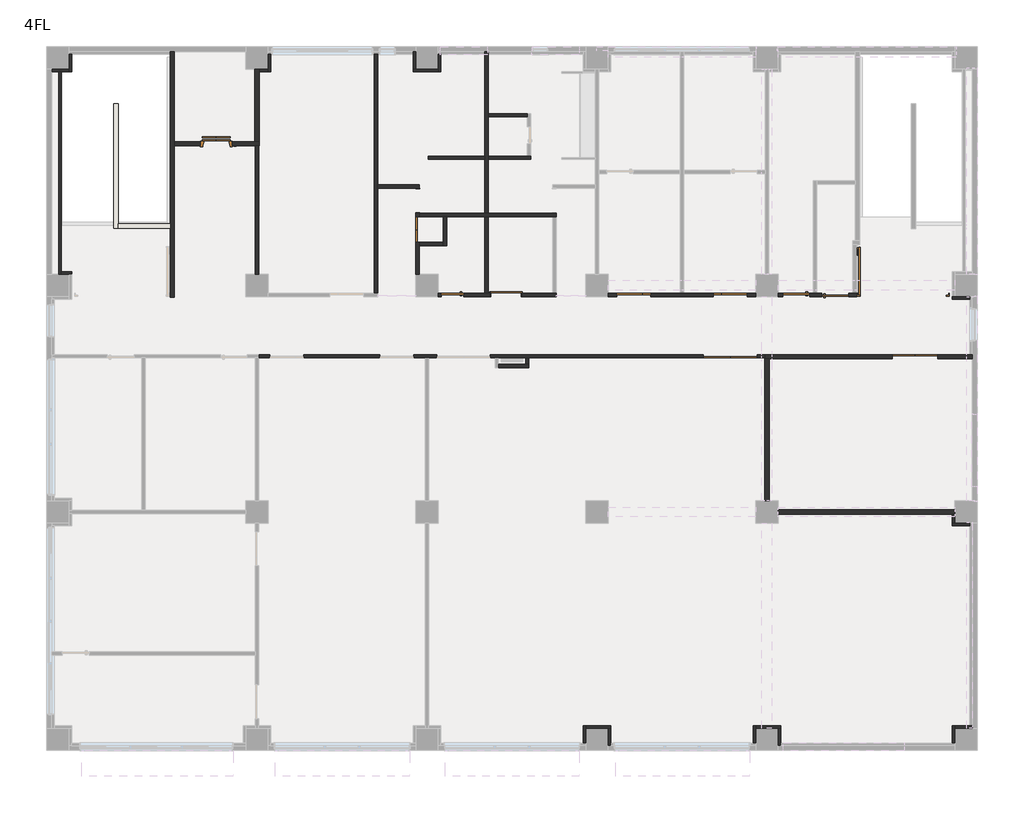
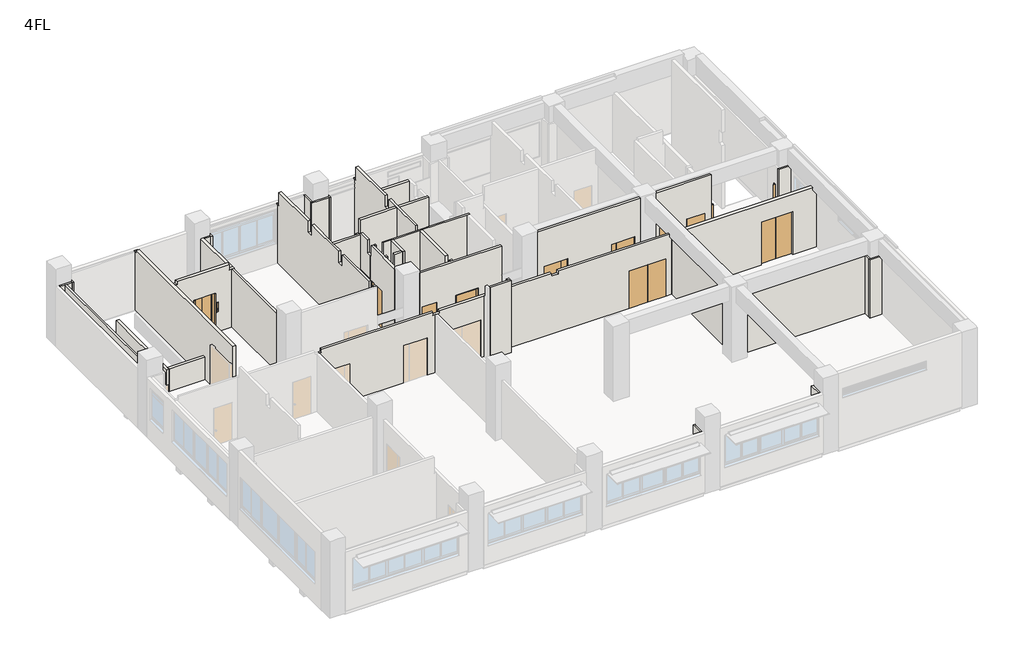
# One storey, part 2 of 5: 45 walls, 12 doors.
"""IFC4 building model written with IfcOpenShell, lengths in millimetres."""

from ifc_helpers import new_model, si_unit, frame, origin, place, context, project, spatial, polyline, outline, extrude, faceted_brep, transform, mapped, element, save
from components import door_18b0804b, door_c235f466, door_9fa6e922, door_14d6dc4f, door_dd0264bc, door_2816d948, door_f9cae23c, door_7458d189, door_0812e9ce, door_48d1ee04, sd13_d994cb3e

model = new_model("IFC4")

# Units and contexts
model_context = context("Model", 3, world=origin())
ifc_project = project(units=[si_unit("LENGTHUNIT", "METRE", prefix="MILLI")], contexts=[model_context])

# Site, building, storey
site = spatial("IfcSite", under=ifc_project)
building = spatial("IfcBuilding", under=site)
storey = spatial("IfcBuildingStorey", under=building, Name="4FL", Elevation=12300.0)

# Doors
placement = place(None, origin())
door_shape = door_18b0804b(model_context)
element("IfcDoor", 1, ObjectType="営_親子扉 : LD2 1200*2000", at=placement, inside=storey, context=model_context, shape_type="MappedRepresentation", body=[
    mapped(door_shape, transform((23700.0, 15665.0, 12300.0), x_axis=(1.0, 0.0, 0.0), y_axis=(0.0, 1.0, 0.0), z_axis=(0.0, 0.0, 1.0))),
])
door_2_shape = door_c235f466(model_context)
element("IfcDoor", 2, ObjectType="営_親子扉 : LD2 1200*2000", at=placement, inside=storey, context=model_context, shape_type="MappedRepresentation", body=[
    mapped(door_2_shape, transform((20300.0, 15665.0, 12300.0), x_axis=(-1.0, 0.0, 0.0), y_axis=(0.0, -1.0, 0.0), z_axis=(0.0, 0.0, 1.0))),
])
door_3_shape = door_9fa6e922(model_context)
element("IfcDoor", 3, ObjectType="営_EVドア : EVドア", at=placement, inside=storey, context=model_context, shape_type="MappedRepresentation", body=[
    mapped(door_3_shape, transform((5560.0, 21000.0, 12300.0), x_axis=(1.0, 0.0, 0.0), y_axis=(0.0, 1.0, 0.0), z_axis=(0.0, 0.0, 1.0))),
])
door_4_shape = door_14d6dc4f(model_context)
element("IfcDoor", 4, ObjectType="営_三方枠 : S1_850*2000", at=placement, inside=storey, context=model_context, shape_type="MappedRepresentation", body=[
    mapped(door_4_shape, transform((12665.0, 18990.25, 12300.0), x_axis=(0.0, 1.0, 0.0), y_axis=(-1.0, 0.0, 0.0), z_axis=(0.0, 0.0, 1.0))),
])
door_5_shape = door_dd0264bc(model_context)
element("IfcDoor", 5, ObjectType="営_両開き扉 : SD3b 1600*2300", at=placement, inside=storey, context=model_context, shape_type="MappedRepresentation", body=[
    mapped(door_5_shape, transform((30235.0, 13480.0, 12300.0), x_axis=(1.0, 0.0, 0.0), y_axis=(0.0, 1.0, 0.0), z_axis=(0.0, 0.0, 1.0))),
])
door_6_shape = door_2816d948(model_context)
element("IfcDoor", 6, ObjectType="営_両開き扉 : LD4 1900*2000", at=placement, inside=storey, context=model_context, shape_type="MappedRepresentation", body=[
    mapped(door_6_shape, transform((23710.0, 13500.0, 12300.0), x_axis=(-1.0, 0.0, 0.0), y_axis=(0.0, -1.0, 0.0), z_axis=(0.0, 0.0, 1.0))),
])
door_7_shape = door_f9cae23c(model_context)
element("IfcDoor", 7, ObjectType="営_両開き扉 : LD5 900*2000", at=placement, inside=storey, context=model_context, shape_type="MappedRepresentation", body=[
    mapped(door_7_shape, transform((12665.0, 17975.0, 12300.0), x_axis=(0.0, 1.0, 0.0), y_axis=(-1.0, 0.0, 0.0), z_axis=(0.0, 0.0, 1.0))),
])
door_8_shape = door_7458d189(model_context)
element("IfcDoor", 8, ObjectType="営_引戸／引込戸 : LD1 960*2000", at=placement, inside=storey, context=model_context, shape_type="MappedRepresentation", body=[
    mapped(door_8_shape, transform((15800.0, 15665.0, 12300.0), x_axis=(1.0, 0.0, 0.0), y_axis=(0.0, 1.0, 0.0), z_axis=(0.0, 0.0, 1.0))),
])
door_9_shape = door_0812e9ce(model_context)
element("IfcDoor", 9, ObjectType="営_片開き扉 : LD3 950*2000", at=placement, inside=storey, context=model_context, shape_type="MappedRepresentation", body=[
    mapped(door_9_shape, transform((26030.0, 15665.0, 12300.0), x_axis=(-1.0, 0.0, 0.0), y_axis=(0.0, -1.0, 0.0), z_axis=(0.0, 0.0, 1.0))),
])
element("IfcDoor", 10, ObjectType="営_片開き扉 : LD3 950*2000", at=placement, inside=storey, context=model_context, shape_type="MappedRepresentation", body=[
    mapped(door_9_shape, transform((27410.0, 15665.0, 12300.0), x_axis=(1.0, 0.0, 0.0), y_axis=(0.0, 1.0, 0.0), z_axis=(0.0, 0.0, 1.0))),
])
door_10_shape = door_48d1ee04(model_context)
element("IfcDoor", 11, ObjectType="営_片開き扉 : LD11 850*2000", at=placement, inside=storey, context=model_context, shape_type="MappedRepresentation", body=[
    mapped(door_10_shape, transform((13900.0, 15665.0, 12300.0), x_axis=(-1.0, 0.0, 0.0), y_axis=(0.0, -1.0, 0.0), z_axis=(0.0, 0.0, 1.0))),
])
sd13_shape = sd13_d994cb3e(model_context)
element("IfcDoor", 12, ObjectType="営_随閉扉 B階段 2～4F : SD13", at=placement, inside=storey, context=model_context, shape_type="MappedRepresentation", body=[
    mapped(sd13_shape, transform((28100.0, 15665.0, 12300.0), x_axis=(0.0, -1.0, 0.0), y_axis=(1.0, 0.0, 0.0), z_axis=(0.0, 0.0, 1.0))),
])

# Walls
element("IfcWall", 13, ObjectType="(内壁)150_RC", at=placement, inside=storey, context=model_context, shape_type="Brep", body=[
    faceted_brep([(24925.0, 13555.0, 15400.0), (25175.0, 13555.0, 15400.0), (25175.0, 13555.0, 15550.0), (32050.0, 13555.0, 15550.0), (32050.0, 13555.0, 15400.0), (32250.0, 13555.0, 15400.0), (32250.0, 13555.0, 12300.0), (31035.0, 13555.0, 12300.0), (31035.0, 13555.0, 14600.0), (29435.0, 13555.0, 14600.0), (29435.0, 13555.0, 12300.0), (24925.0, 13555.0, 12300.0), (25175.0, 13405.0, 15400.0), (25075.0, 13405.0, 15400.0), (24925.0, 13405.0, 15400.0), (24925.0, 13405.0, 12300.0), (25075.0, 13405.0, 12300.0), (29435.0, 13405.0, 12300.0), (29435.0, 13405.0, 14600.0), (31035.0, 13405.0, 14600.0), (31035.0, 13405.0, 12300.0), (32250.0, 13405.0, 12300.0), (32250.0, 13405.0, 15400.0), (32050.0, 13405.0, 15400.0), (32050.0, 13405.0, 15550.0), (25175.0, 13405.0, 15550.0), (24925.0, 13440.0, 12300.0), (24925.0, 13440.0, 15400.0)], [[[0, 1, 2, 3, 4, 5, 6, 7, 8, 9, 10, 11]], [[12, 13, 14, 15, 16, 17, 18, 19, 20, 21, 22, 23, 24, 25]], [[6, 21, 20, 7]], [[15, 26, 11, 10, 17, 16]], [[21, 6, 5, 22]], [[11, 26, 15, 14, 27, 0]], [[1, 12, 25, 2]], [[12, 1, 0, 27, 14, 13]], [[4, 23, 22, 5]], [[23, 4, 3, 24]], [[10, 9, 18, 17]], [[8, 7, 20, 19]], [[9, 8, 19, 18]], [[3, 2, 25, 24]]]),
])
element("IfcWall", 14, ObjectType="(内壁)150_RC", at=placement, inside=storey, context=model_context, shape_type="SweptSolid", body=[
    extrude(outline(polyline([(24925.0, 13405.0), (25075.0, 13405.0), (25075.0, 8395.0), (24925.0, 8395.0), (24925.0, 13405.0)])), frame((0.0, 0.0, 12300.0), z_axis=(0.0, 0.0, 1.0), x_axis=(1.0, 0.0, 0.0)), (0.0, 0.0, 1.0), 3100.0),
])
element("IfcWall", 15, ObjectType="(内壁)150_RC", at=placement, inside=storey, context=model_context, shape_type="Brep", body=[
    faceted_brep([(25395.0, 7925.0, 12300.0), (31630.0, 7925.0, 12300.0), (31630.0, 7925.0, 15400.0), (31630.0, 7925.0, 15450.0), (25395.0, 7925.0, 15450.0), (31630.0, 8075.0, 12300.0), (25395.0, 8075.0, 12300.0), (25395.0, 8075.0, 15450.0), (31630.0, 8075.0, 15450.0)], [[[0, 1, 2, 3, 4]], [[5, 6, 7, 8]], [[0, 6, 5, 1]], [[6, 0, 4, 7]], [[1, 5, 8, 3, 2]], [[4, 3, 8, 7]]]),
])
element("IfcWall", 16, ObjectType="(内壁)150_RC", at=placement, inside=storey, context=model_context, shape_type="Brep", body=[
    faceted_brep([(3925.0, 24250.0, 12300.0), (3925.0, 18175.0, 12300.0), (3925.0, 18025.0, 12300.0), (3925.0, 15580.0, 12300.0), (3925.0, 15580.0, 15550.0), (3925.0, 24050.0, 15550.0), (3925.0, 24050.0, 15450.0), (3925.0, 24250.0, 15450.0), (4075.0, 15580.0, 12300.0), (4075.0, 20925.0, 12300.0), (4075.0, 21075.0, 12300.0), (4075.0, 24250.0, 12300.0), (4075.0, 24250.0, 15450.0), (4075.0, 24050.0, 15450.0), (4075.0, 24050.0, 15550.0), (4075.0, 21075.0, 15550.0), (4075.0, 20925.0, 15550.0), (4075.0, 15580.0, 15550.0)], [[[0, 1, 2, 3, 4, 5, 6, 7]], [[8, 9, 10, 11, 12, 13, 14, 15, 16, 17]], [[3, 2, 1, 0, 11, 10, 9, 8]], [[4, 3, 8, 17]], [[4, 17, 16, 15, 14, 5]], [[11, 0, 7, 12]], [[13, 6, 5, 14]], [[6, 13, 12, 7]]]),
])
element("IfcWall", 17, ObjectType="(内壁)150_RC", at=placement, inside=storey, context=model_context, shape_type="Brep", body=[
    faceted_brep([(7075.0, 20925.0, 15400.0), (7060.0, 20925.0, 15400.0), (6940.0, 20925.0, 15400.0), (6825.0, 20925.0, 15400.0), (6825.0, 20925.0, 15700.0), (4175.0, 20925.0, 15700.0), (4175.0, 20925.0, 15550.0), (4075.0, 20925.0, 15550.0), (4075.0, 20925.0, 12300.0), (5000.0, 20925.0, 12300.0), (5000.0, 20925.0, 14400.0), (6120.0, 20925.0, 14400.0), (6120.0, 20925.0, 12300.0), (6940.0, 20925.0, 12300.0), (7060.0, 20925.0, 12300.0), (7075.0, 20925.0, 12300.0), (6825.0, 21075.0, 15400.0), (6925.0, 21075.0, 15400.0), (7075.0, 21075.0, 15400.0), (7075.0, 21075.0, 12300.0), (6925.0, 21075.0, 12300.0), (6120.0, 21075.0, 12300.0), (6120.0, 21075.0, 14400.0), (5000.0, 21075.0, 14400.0), (5000.0, 21075.0, 12300.0), (4075.0, 21075.0, 12300.0), (4075.0, 21075.0, 15550.0), (4175.0, 21075.0, 15550.0), (4175.0, 21075.0, 15700.0), (6825.0, 21075.0, 15700.0)], [[[0, 1, 2, 3, 4, 5, 6, 7, 8, 9, 10, 11, 12, 13, 14, 15]], [[16, 17, 18, 19, 20, 21, 22, 23, 24, 25, 26, 27, 28, 29]], [[19, 15, 14, 13, 12, 21, 20]], [[8, 25, 24, 9]], [[15, 19, 18, 0]], [[25, 8, 7, 26]], [[3, 2, 1, 0, 18, 17, 16]], [[3, 16, 29, 4]], [[24, 23, 10, 9]], [[22, 21, 12, 11]], [[23, 22, 11, 10]], [[4, 29, 28, 5]], [[27, 6, 5, 28]], [[6, 27, 26, 7]]]),
])
element("IfcWall", 18, ObjectType="(内壁)150_RC", at=placement, inside=storey, context=model_context, shape_type="Brep", body=[
    faceted_brep([(7075.0, 21075.0, 12300.0), (7075.0, 23540.0, 12300.0), (7075.0, 23630.0, 12300.0), (7075.0, 23630.0, 15400.0), (7075.0, 23540.0, 15400.0), (7075.0, 21075.0, 15400.0), (6925.0, 23630.0, 12300.0), (6925.0, 21075.0, 12300.0), (6925.0, 21075.0, 15400.0), (6925.0, 23630.0, 15400.0)], [[[0, 1, 2, 3, 4, 5]], [[6, 7, 8, 9]], [[0, 7, 6, 2, 1]], [[7, 0, 5, 8]], [[2, 6, 9, 3]], [[5, 4, 3, 9, 8]]]),
])
element("IfcWall", 19, ObjectType="(内壁)W3", at=placement, inside=storey, context=model_context, shape_type="SweptSolid", body=[
    extrude(outline(polyline([(6940.0, 20925.0), (7060.0, 20925.0), (7060.0, 16395.0), (6940.0, 16395.0), (6940.0, 20925.0)])), frame((0.0, 0.0, 12300.0), z_axis=(0.0, 0.0, 1.0), x_axis=(1.0, 0.0, 0.0)), (0.0, 0.0, 1.0), 3100.0),
])
element("IfcWall", 20, ObjectType="(内壁)W3", at=placement, inside=storey, context=model_context, shape_type="Brep", body=[
    faceted_brep([(28175.0, 15725.0, 16250.0), (28175.0, 15725.0, 16150.0), (28175.0, 15725.0, 12300.0), (28025.0, 15725.0, 12300.0), (27885.0, 15725.0, 12300.0), (27885.0, 15725.0, 14300.0), (26935.0, 15725.0, 14300.0), (26935.0, 15725.0, 12300.0), (26760.0, 15725.0, 12300.0), (26640.0, 15725.0, 12300.0), (26505.0, 15725.0, 12300.0), (26505.0, 15725.0, 14300.0), (25555.0, 15725.0, 14300.0), (25555.0, 15725.0, 12300.0), (25395.0, 15725.0, 12300.0), (25395.0, 15725.0, 16250.0), (28175.0, 15605.0, 12300.0), (28175.0, 15605.0, 16250.0), (25395.0, 15605.0, 16250.0), (25395.0, 15605.0, 12300.0), (25555.0, 15605.0, 12300.0), (25555.0, 15605.0, 14300.0), (26505.0, 15605.0, 14300.0), (26505.0, 15605.0, 12300.0), (26935.0, 15605.0, 12300.0), (26935.0, 15605.0, 14300.0), (27885.0, 15605.0, 14300.0), (27885.0, 15605.0, 12300.0)], [[[0, 1, 2, 3, 4, 5, 6, 7, 8, 9, 10, 11, 12, 13, 14, 15]], [[16, 17, 18, 19, 20, 21, 22, 23, 24, 25, 26, 27]], [[2, 16, 27, 4, 3]], [[23, 10, 9, 8, 7, 24]], [[13, 20, 19, 14]], [[17, 0, 15, 18]], [[2, 1, 0, 17, 16]], [[23, 22, 11, 10]], [[21, 20, 13, 12]], [[22, 21, 12, 11]], [[7, 6, 25, 24]], [[5, 4, 27, 26]], [[6, 5, 26, 25]], [[15, 14, 19, 18]]]),
    faceted_brep([(20900.0, 15725.0, 12300.0), (20900.0, 15725.0, 14300.0), (19700.0, 15725.0, 14300.0), (19700.0, 15725.0, 12300.0), (19395.0, 15725.0, 12300.0), (19395.0, 15725.0, 16250.0), (24605.0, 15725.0, 16250.0), (24605.0, 15725.0, 12300.0), (24300.0, 15725.0, 12300.0), (24300.0, 15725.0, 14300.0), (23100.0, 15725.0, 14300.0), (23100.0, 15725.0, 12300.0), (22060.0, 15725.0, 12300.0), (21940.0, 15725.0, 12300.0), (20900.0, 15605.0, 14300.0), (20900.0, 15605.0, 12300.0), (23100.0, 15605.0, 12300.0), (23100.0, 15605.0, 14300.0), (24300.0, 15605.0, 14300.0), (24300.0, 15605.0, 12300.0), (24605.0, 15605.0, 12300.0), (24605.0, 15605.0, 16250.0), (19395.0, 15605.0, 16250.0), (19395.0, 15605.0, 12300.0), (19700.0, 15605.0, 12300.0), (19700.0, 15605.0, 14300.0)], [[[0, 1, 2, 3, 4, 5, 6, 7, 8, 9, 10, 11, 12, 13]], [[14, 15, 16, 17, 18, 19, 20, 21, 22, 23, 24, 25]], [[15, 0, 13, 12, 11, 16]], [[3, 24, 23, 4]], [[19, 8, 7, 20]], [[5, 22, 21, 6]], [[15, 14, 1, 0]], [[25, 24, 3, 2]], [[14, 25, 2, 1]], [[11, 10, 17, 16]], [[9, 8, 19, 18]], [[10, 9, 18, 17]], [[5, 4, 23, 22]], [[7, 6, 21, 20]]]),
])
element("IfcWall", 21, ObjectType="(内壁)W4", at=placement, inside=storey, context=model_context, shape_type="Brep", body=[
    faceted_brep([(14300.0, 15725.0, 12300.0), (14300.0, 15725.0, 14300.0), (13500.0, 15725.0, 14300.0), (13500.0, 15725.0, 12300.0), (13395.0, 15725.0, 12300.0), (13395.0, 15725.0, 16150.0), (15040.0, 15725.0, 16150.0), (15160.0, 15725.0, 16150.0), (17440.0, 15725.0, 16150.0), (17560.0, 15725.0, 16150.0), (17560.0, 15725.0, 12300.0), (17440.0, 15725.0, 12300.0), (16355.0, 15725.0, 12300.0), (16355.0, 15725.0, 14325.0), (15220.0, 15725.0, 14325.0), (15220.0, 15725.0, 12300.0), (15160.0, 15725.0, 12300.0), (15040.0, 15725.0, 12300.0), (14300.0, 15605.0, 14300.0), (14300.0, 15605.0, 12300.0), (15220.0, 15605.0, 12300.0), (15220.0, 15605.0, 14325.0), (16355.0, 15605.0, 14325.0), (16355.0, 15605.0, 12300.0), (17560.0, 15605.0, 12300.0), (17560.0, 15605.0, 16150.0), (13395.0, 15605.0, 16150.0), (13395.0, 15605.0, 12300.0), (13500.0, 15605.0, 12300.0), (13500.0, 15605.0, 14300.0)], [[[0, 1, 2, 3, 4, 5, 6, 7, 8, 9, 10, 11, 12, 13, 14, 15, 16, 17]], [[18, 19, 20, 21, 22, 23, 24, 25, 26, 27, 28, 29]], [[19, 0, 17, 16, 15, 20]], [[3, 28, 27, 4]], [[24, 23, 12, 11, 10]], [[25, 9, 8, 7, 6, 5, 26]], [[19, 18, 1, 0]], [[29, 28, 3, 2]], [[18, 29, 2, 1]], [[14, 21, 20, 15]], [[22, 13, 12, 23]], [[21, 14, 13, 22]], [[5, 4, 27, 26]], [[10, 9, 25, 24]]]),
])
element("IfcWall", 22, ObjectType="(内壁)W4", at=placement, inside=storey, context=model_context, shape_type="Brep", body=[
    faceted_brep([(11140.0, 15725.0, 16150.0), (11140.0, 15825.0, 16150.0), (11140.0, 15825.0, 15450.0), (11140.0, 16175.0, 15450.0), (11140.0, 16175.0, 16150.0), (11140.0, 18495.0, 16150.0), (11140.0, 18495.0, 15550.0), (11140.0, 18845.0, 15550.0), (11140.0, 18845.0, 16150.0), (11140.0, 21165.0, 16150.0), (11140.0, 21165.0, 15550.0), (11140.0, 21515.0, 15550.0), (11140.0, 21515.0, 16150.0), (11140.0, 24050.0, 16150.0), (11140.0, 24050.0, 15450.0), (11140.0, 24250.0, 15450.0), (11140.0, 24250.0, 15400.0), (11140.0, 24160.6075581, 15400.0), (11140.0, 24160.6075581, 12300.0), (11140.0, 15725.0, 12300.0), (11260.0, 15825.0, 16150.0), (11260.0, 15725.0, 16150.0), (11260.0, 15725.0, 12300.0), (11260.0, 19430.0, 12300.0), (11260.0, 19550.0, 12300.0), (11260.0, 24160.6075581, 12300.0), (11260.0, 24160.6075581, 15400.0), (11260.0, 24250.0, 15400.0), (11260.0, 24250.0, 15450.0), (11260.0, 24050.0, 15450.0), (11260.0, 24050.0, 16150.0), (11260.0, 21515.0, 16150.0), (11260.0, 21515.0, 15550.0), (11260.0, 21165.0, 15550.0), (11260.0, 21165.0, 16150.0), (11260.0, 19550.0, 16150.0), (11260.0, 19430.0, 16150.0), (11260.0, 18845.0, 16150.0), (11260.0, 18845.0, 15550.0), (11260.0, 18495.0, 15550.0), (11260.0, 18495.0, 16150.0), (11260.0, 16175.0, 16150.0), (11260.0, 16175.0, 15450.0), (11260.0, 15825.0, 15450.0)], [[[0, 1, 2, 3, 4, 5, 6, 7, 8, 9, 10, 11, 12, 13, 14, 15, 16, 17, 18, 19]], [[20, 21, 22, 23, 24, 25, 26, 27, 28, 29, 30, 31, 32, 33, 34, 35, 36, 37, 38, 39, 40, 41, 42, 43]], [[19, 18, 25, 24, 23, 22]], [[1, 0, 21, 20]], [[4, 41, 40, 5]], [[30, 13, 12, 31]], [[8, 37, 36, 35, 34, 9]], [[15, 28, 27, 16]], [[2, 1, 20, 43]], [[3, 2, 43, 42]], [[4, 3, 42, 41]], [[29, 14, 13, 30]], [[14, 29, 28, 15]], [[17, 26, 25, 18]], [[26, 17, 16, 27]], [[39, 6, 5, 40]], [[6, 39, 38, 7]], [[7, 38, 37, 8]], [[33, 10, 9, 34]], [[10, 33, 32, 11]], [[11, 32, 31, 12]], [[0, 19, 22, 21]]]),
])
element("IfcWall", 23, ObjectType="(内壁)W4", at=placement, inside=storey, context=model_context, shape_type="Brep", body=[
    faceted_brep([(12725.0, 17525.0, 12300.0), (12725.0, 17525.0, 14300.0), (12725.0, 18425.0, 14300.0), (12725.0, 18425.0, 12300.0), (12725.0, 18430.0, 12300.0), (12725.0, 18550.0, 12300.0), (12725.0, 18550.0, 15550.0), (12725.0, 18495.0, 15550.0), (12725.0, 18495.0, 16150.0), (12725.0, 18430.0, 16150.0), (12725.0, 17520.0, 16150.0), (12725.0, 17400.0, 16150.0), (12725.0, 16395.0, 16150.0), (12725.0, 16395.0, 12300.0), (12725.0, 17400.0, 12300.0), (12725.0, 17520.0, 12300.0), (12605.0, 17525.0, 14300.0), (12605.0, 17525.0, 12300.0), (12605.0, 16395.0, 12300.0), (12605.0, 16395.0, 16150.0), (12605.0, 18495.0, 16150.0), (12605.0, 18495.0, 15550.0), (12605.0, 18550.0, 15550.0), (12605.0, 18550.0, 12300.0), (12605.0, 18425.0, 12300.0), (12605.0, 18425.0, 14300.0)], [[[0, 1, 2, 3, 4, 5, 6, 7, 8, 9, 10, 11, 12, 13, 14, 15]], [[16, 17, 18, 19, 20, 21, 22, 23, 24, 25]], [[17, 0, 15, 14, 13, 18]], [[23, 5, 4, 3, 24]], [[19, 12, 11, 10, 9, 8, 20]], [[5, 23, 22, 6]], [[17, 16, 1, 0]], [[25, 24, 3, 2]], [[16, 25, 2, 1]], [[13, 12, 19, 18]], [[7, 21, 20, 8]], [[21, 7, 6, 22]]]),
])
element("IfcWall", 24, ObjectType="(内壁)W4", at=placement, inside=storey, context=model_context, shape_type="Brep", body=[
    faceted_brep([(12725.0, 18430.0, 12300.0), (13570.0, 18430.0, 12300.0), (13690.0, 18430.0, 12300.0), (15040.0, 18430.0, 12300.0), (15160.0, 18430.0, 12300.0), (17440.0, 18430.0, 12300.0), (17560.0, 18430.0, 12300.0), (17560.0, 18430.0, 16150.0), (17440.0, 18430.0, 16150.0), (15160.0, 18430.0, 16150.0), (15040.0, 18430.0, 16150.0), (13690.0, 18430.0, 16150.0), (13570.0, 18430.0, 16150.0), (13175.0, 18430.0, 16150.0), (13175.0, 18430.0, 15400.0), (12825.0, 18430.0, 15400.0), (12825.0, 18430.0, 16150.0), (12725.0, 18430.0, 16150.0), (17560.0, 18550.0, 12300.0), (17440.0, 18550.0, 12300.0), (15160.0, 18550.0, 12300.0), (15040.0, 18550.0, 12300.0), (12725.0, 18550.0, 12300.0), (12725.0, 18550.0, 15550.0), (12825.0, 18550.0, 15550.0), (12825.0, 18550.0, 15400.0), (13175.0, 18550.0, 15400.0), (13175.0, 18550.0, 15550.0), (15040.0, 18550.0, 15550.0), (15160.0, 18550.0, 15550.0), (17440.0, 18550.0, 15550.0), (17560.0, 18550.0, 15550.0), (12825.0, 18495.0, 16150.0), (12725.0, 18495.0, 16150.0), (17560.0, 18495.0, 16150.0), (13175.0, 18495.0, 16150.0), (12725.0, 18495.0, 15550.0), (17560.0, 18495.0, 15550.0), (13175.0, 18495.0, 15550.0), (12825.0, 18495.0, 15550.0)], [[[0, 1, 2, 3, 4, 5, 6, 7, 8, 9, 10, 11, 12, 13, 14, 15, 16, 17]], [[18, 19, 20, 21, 22, 23, 24, 25, 26, 27, 28, 29, 30, 31]], [[6, 5, 4, 3, 2, 1, 0, 22, 21, 20, 19, 18]], [[17, 16, 32, 33]], [[13, 12, 11, 10, 9, 8, 7, 34, 35]], [[0, 17, 33, 36, 23, 22]], [[7, 6, 18, 31, 37, 34]], [[14, 13, 35, 38, 27, 26]], [[15, 14, 26, 25]], [[16, 15, 25, 24, 39, 32]], [[37, 38, 35, 34]], [[38, 37, 31, 30, 29, 28, 27]], [[39, 36, 33, 32]], [[36, 39, 24, 23]]]),
])
element("IfcWall", 25, ObjectType="(内壁)W3", at=placement, inside=storey, context=model_context, shape_type="Brep", body=[
    faceted_brep([(13690.0, 17400.0, 12300.0), (13690.0, 18430.0, 12300.0), (13690.0, 18430.0, 16150.0), (13690.0, 17400.0, 16150.0), (13570.0, 17400.0, 12300.0), (13570.0, 17400.0, 16150.0), (13570.0, 17520.0, 16150.0), (13570.0, 18430.0, 16150.0), (13570.0, 18430.0, 12300.0), (13570.0, 17520.0, 12300.0)], [[[0, 1, 2, 3]], [[4, 5, 6, 7, 8, 9]], [[1, 0, 4, 9, 8]], [[3, 2, 7, 6, 5]], [[2, 1, 8, 7]], [[0, 3, 5, 4]]]),
])
element("IfcWall", 26, ObjectType="(内壁)W4", at=placement, inside=storey, context=model_context, shape_type="SweptSolid", body=[
    extrude(outline(polyline([(12300.0, 13040.0), (12300.0, 15040.0), (16150.0, 15040.0), (16150.0, 13175.0), (15400.0, 13175.0), (15400.0, 13040.0), (12300.0, 13040.0)])), frame((0.0, 20450.0, 0.0), z_axis=(0.0, 1.0, 0.0), x_axis=(0.0, 0.0, 1.0)), (0.0, 0.0, 1.0), 120.0),
])
element("IfcWall", 27, ObjectType="(内壁)W3", at=placement, inside=storey, context=model_context, shape_type="SweptSolid", body=[
    extrude(outline(polyline([(15160.0, 22070.0), (16540.0, 22070.0), (16540.0, 21950.0), (15160.0, 21950.0), (15160.0, 22070.0)])), frame((0.0, 0.0, 12300.0), z_axis=(0.0, 0.0, 1.0), x_axis=(1.0, 0.0, 0.0)), (0.0, 0.0, 1.0), 3850.0),
])
element("IfcWall", 28, ObjectType="(内壁)W4", at=placement, inside=storey, context=model_context, shape_type="Brep", body=[
    faceted_brep([(11260.0, 19430.0, 12300.0), (12605.0, 19430.0, 12300.0), (12725.0, 19430.0, 12300.0), (12725.0, 19430.0, 16150.0), (11260.0, 19430.0, 16150.0), (11260.0, 19550.0, 12300.0), (11260.0, 19550.0, 16150.0), (12725.0, 19550.0, 16150.0), (12725.0, 19550.0, 12300.0)], [[[0, 1, 2, 3, 4]], [[5, 6, 7, 8]], [[2, 1, 0, 5, 8]], [[4, 3, 7, 6]], [[0, 4, 6, 5]], [[3, 2, 8, 7]]]),
])
element("IfcWall", 29, ObjectType="(内壁)W4", at=placement, inside=storey, context=model_context, shape_type="Brep", body=[
    faceted_brep([(15040.0, 18430.0, 12300.0), (15040.0, 15725.0, 12300.0), (15040.0, 15725.0, 16150.0), (15040.0, 15825.0, 16150.0), (15040.0, 15825.0, 15450.0), (15040.0, 16175.0, 15450.0), (15040.0, 16175.0, 16150.0), (15040.0, 18430.0, 16150.0), (15160.0, 15725.0, 12300.0), (15160.0, 18430.0, 12300.0), (15160.0, 18430.0, 16150.0), (15160.0, 16175.0, 16150.0), (15160.0, 16175.0, 15450.0), (15160.0, 15825.0, 15450.0), (15160.0, 15825.0, 16150.0), (15160.0, 15725.0, 16150.0)], [[[0, 1, 2, 3, 4, 5, 6, 7]], [[8, 9, 10, 11, 12, 13, 14, 15]], [[1, 0, 9, 8]], [[10, 7, 6, 11]], [[2, 15, 14, 3]], [[0, 7, 10, 9]], [[2, 1, 8, 15]], [[4, 3, 14, 13]], [[5, 4, 13, 12]], [[6, 5, 12, 11]]]),
    faceted_brep([(15040.0, 24250.0, 12300.0), (15040.0, 24160.0, 12300.0), (15040.0, 20570.0, 12300.0), (15040.0, 20450.0, 12300.0), (15040.0, 18550.0, 12300.0), (15040.0, 18550.0, 15550.0), (15040.0, 18845.0, 15550.0), (15040.0, 18845.0, 16150.0), (15040.0, 20450.0, 16150.0), (15040.0, 20570.0, 16150.0), (15040.0, 21165.0, 16150.0), (15040.0, 21165.0, 15550.0), (15040.0, 21515.0, 15550.0), (15040.0, 21515.0, 16150.0), (15040.0, 24050.0, 16150.0), (15040.0, 24050.0, 15450.0), (15040.0, 24250.0, 15450.0), (15040.0, 24250.0, 15400.0), (15160.0, 18550.0, 12300.0), (15160.0, 20450.0, 12300.0), (15160.0, 20570.0, 12300.0), (15160.0, 21950.0, 12300.0), (15160.0, 22070.0, 12300.0), (15160.0, 24160.0, 12300.0), (15160.0, 24250.0, 12300.0), (15160.0, 24250.0, 15400.0), (15160.0, 24250.0, 15450.0), (15160.0, 24050.0, 15450.0), (15160.0, 24050.0, 16150.0), (15160.0, 22070.0, 16150.0), (15160.0, 21950.0, 16150.0), (15160.0, 21515.0, 16150.0), (15160.0, 21515.0, 15550.0), (15160.0, 21165.0, 15550.0), (15160.0, 21165.0, 16150.0), (15160.0, 20570.0, 16150.0), (15160.0, 20450.0, 16150.0), (15160.0, 18845.0, 16150.0), (15160.0, 18845.0, 15550.0), (15160.0, 18550.0, 15550.0)], [[[0, 1, 2, 3, 4, 5, 6, 7, 8, 9, 10, 11, 12, 13, 14, 15, 16, 17]], [[18, 19, 20, 21, 22, 23, 24, 25, 26, 27, 28, 29, 30, 31, 32, 33, 34, 35, 36, 37, 38, 39]], [[4, 3, 2, 1, 0, 24, 23, 22, 21, 20, 19, 18]], [[28, 14, 13, 31, 30, 29]], [[7, 37, 36, 35, 34, 10, 9, 8]], [[4, 18, 39, 5]], [[24, 0, 17, 16, 26, 25]], [[27, 15, 14, 28]], [[15, 27, 26, 16]], [[38, 6, 5, 39]], [[6, 38, 37, 7]], [[33, 11, 10, 34]], [[11, 33, 32, 12]], [[12, 32, 31, 13]]]),
])
element("IfcWall", 30, ObjectType="(内壁)W3", at=placement, inside=storey, context=model_context, shape_type="SweptSolid", body=[
    extrude(outline(polyline([(12300.0, 12725.0), (12300.0, 13570.0), (16150.0, 13570.0), (16150.0, 13175.0), (15400.0, 13175.0), (15400.0, 12825.0), (16150.0, 12825.0), (16150.0, 12725.0), (12300.0, 12725.0)])), frame((0.0, 17400.0, 0.0), z_axis=(0.0, 1.0, 0.0), x_axis=(0.0, 0.0, 1.0)), (0.0, 0.0, 1.0), 120.0),
])
element("IfcWall", 31, ObjectType="(内壁)120_部屋境界OFF", at=placement, inside=storey, context=model_context, shape_type="Brep", body=[
    faceted_brep([(12725.0, 18550.0, 12300.0), (12725.0, 18555.25, 12300.0), (12725.0, 18555.25, 14310.0), (12725.0, 19425.25, 14310.0), (12725.0, 19425.25, 12300.0), (12725.0, 19430.0, 12300.0), (12725.0, 19430.0, 16150.0), (12725.0, 19430.0, 16250.0), (12725.0, 18845.0, 16250.0), (12725.0, 18845.0, 15550.0), (12725.0, 18550.0, 15550.0), (12605.0, 18555.25, 12300.0), (12605.0, 18550.0, 12300.0), (12605.0, 18550.0, 15550.0), (12605.0, 18845.0, 15550.0), (12605.0, 18845.0, 16250.0), (12605.0, 19430.0, 16250.0), (12605.0, 19430.0, 12300.0), (12605.0, 19425.25, 12300.0), (12605.0, 19425.25, 14310.0), (12605.0, 18555.25, 14310.0)], [[[0, 1, 2, 3, 4, 5, 6, 7, 8, 9, 10]], [[11, 12, 13, 14, 15, 16, 17, 18, 19, 20]], [[12, 11, 1, 0]], [[5, 4, 18, 17]], [[7, 16, 15, 8]], [[12, 0, 10, 13]], [[20, 2, 1, 11]], [[2, 20, 19, 3]], [[3, 19, 18, 4]], [[7, 6, 5, 17, 16]], [[9, 14, 13, 10]], [[14, 9, 8, 15]]]),
])
element("IfcWall", 32, ObjectType="(内壁)W3", at=placement, inside=storey, context=model_context, shape_type="Brep", body=[
    faceted_brep([(7440.0, 13440.0, 14300.0), (8640.0, 13440.0, 14300.0), (8640.0, 13440.0, 12300.0), (11325.0, 13440.0, 12300.0), (11325.0, 13440.0, 14300.0), (12525.0, 13440.0, 14300.0), (12525.0, 13440.0, 12300.0), (12940.0, 13440.0, 12300.0), (13060.0, 13440.0, 12300.0), (13340.0, 13440.0, 12300.0), (13340.0, 13440.0, 14300.0), (15240.0, 13440.0, 14300.0), (15240.0, 13440.0, 12300.0), (15400.0, 13440.0, 12300.0), (15520.0, 13440.0, 12300.0), (16480.0, 13440.0, 12300.0), (16600.0, 13440.0, 12300.0), (22760.0, 13440.0, 12300.0), (22760.0, 13440.0, 14300.0), (24660.0, 13440.0, 14300.0), (24660.0, 13440.0, 12300.0), (24925.0, 13440.0, 12300.0), (24925.0, 13440.0, 15400.0), (24825.0, 13440.0, 15400.0), (24825.0, 13440.0, 15550.0), (19175.0, 13440.0, 15550.0), (19175.0, 13440.0, 15400.0), (18825.0, 13440.0, 15400.0), (18825.0, 13440.0, 15550.0), (16600.0, 13440.0, 15550.0), (16480.0, 13440.0, 15550.0), (15520.0, 13440.0, 15550.0), (15400.0, 13440.0, 15550.0), (13175.0, 13440.0, 15550.0), (13175.0, 13440.0, 15400.0), (13060.0, 13440.0, 15400.0), (12940.0, 13440.0, 15400.0), (12825.0, 13440.0, 15400.0), (12825.0, 13440.0, 15550.0), (7175.0, 13440.0, 15550.0), (7175.0, 13440.0, 15400.0), (7060.0, 13440.0, 15400.0), (7050.0, 13440.0, 15400.0), (7050.0, 13440.0, 12300.0), (7060.0, 13440.0, 12300.0), (7440.0, 13440.0, 12300.0), (8640.0, 13560.0, 14300.0), (7440.0, 13560.0, 14300.0), (7440.0, 13560.0, 12300.0), (7050.0, 13560.0, 12300.0), (7050.0, 13560.0, 15400.0), (7175.0, 13560.0, 15400.0), (7175.0, 13560.0, 15550.0), (12825.0, 13560.0, 15550.0), (12825.0, 13560.0, 15400.0), (13175.0, 13560.0, 15400.0), (13175.0, 13560.0, 15550.0), (18825.0, 13560.0, 15550.0), (18825.0, 13560.0, 15400.0), (19175.0, 13560.0, 15400.0), (19175.0, 13560.0, 15550.0), (24825.0, 13560.0, 15550.0), (24825.0, 13560.0, 15400.0), (24925.0, 13560.0, 15400.0), (24925.0, 13560.0, 12300.0), (24660.0, 13560.0, 12300.0), (24660.0, 13560.0, 14300.0), (22760.0, 13560.0, 14300.0), (22760.0, 13560.0, 12300.0), (15240.0, 13560.0, 12300.0), (15240.0, 13560.0, 14300.0), (13340.0, 13560.0, 14300.0), (13340.0, 13560.0, 12300.0), (12525.0, 13560.0, 12300.0), (12525.0, 13560.0, 14300.0), (11325.0, 13560.0, 14300.0), (11325.0, 13560.0, 12300.0), (8640.0, 13560.0, 12300.0), (24925.0, 13555.0, 12300.0), (24925.0, 13555.0, 15400.0)], [[[0, 1, 2, 3, 4, 5, 6, 7, 8, 9, 10, 11, 12, 13, 14, 15, 16, 17, 18, 19, 20, 21, 22, 23, 24, 25, 26, 27, 28, 29, 30, 31, 32, 33, 34, 35, 36, 37, 38, 39, 40, 41, 42, 43, 44, 45]], [[46, 47, 48, 49, 50, 51, 52, 53, 54, 55, 56, 57, 58, 59, 60, 61, 62, 63, 64, 65, 66, 67, 68, 69, 70, 71, 72, 73, 74, 75, 76, 77]], [[64, 78, 21, 20, 65]], [[2, 77, 76, 3]], [[6, 73, 72, 9, 8, 7]], [[12, 69, 68, 17, 16, 15, 14, 13]], [[43, 49, 48, 45, 44]], [[52, 39, 38, 53]], [[56, 33, 32, 31, 30, 29, 28, 57]], [[60, 25, 24, 61]], [[49, 43, 42, 50]], [[21, 78, 64, 63, 79, 22]], [[1, 0, 47, 46]], [[0, 45, 48, 47]], [[2, 1, 46, 77]], [[75, 74, 5, 4]], [[74, 73, 6, 5]], [[76, 75, 4, 3]], [[11, 10, 71, 70]], [[10, 9, 72, 71]], [[12, 11, 70, 69]], [[19, 18, 67, 66]], [[18, 17, 68, 67]], [[20, 19, 66, 65]], [[51, 40, 39, 52]], [[40, 51, 50, 42, 41]], [[55, 34, 33, 56]], [[34, 55, 54, 37, 36, 35]], [[37, 54, 53, 38]], [[59, 26, 25, 60]], [[26, 59, 58, 27]], [[27, 58, 57, 28]], [[62, 23, 22, 79, 63]], [[23, 62, 61, 24]]]),
])
element("IfcWall", 33, ObjectType="(内壁)W3", at=placement, inside=storey, context=model_context, shape_type="Brep", body=[
    faceted_brep([(15160.0, 20450.0, 12300.0), (16660.0, 20450.0, 12300.0), (16660.0, 20450.0, 16150.0), (15160.0, 20450.0, 16150.0), (15160.0, 20570.0, 12300.0), (15160.0, 20570.0, 16150.0), (16540.0, 20570.0, 16150.0), (16660.0, 20570.0, 16150.0), (16660.0, 20570.0, 12300.0), (16540.0, 20570.0, 12300.0)], [[[0, 1, 2, 3]], [[4, 5, 6, 7, 8, 9]], [[1, 0, 4, 9, 8]], [[3, 2, 7, 6, 5]], [[2, 1, 8, 7]], [[0, 3, 5, 4]]]),
])
element("IfcWall", 34, ObjectType="(内壁)150_RC", at=placement, inside=storey, context=model_context, shape_type="SweptSolid", body=[
    extrude(outline(polyline([(2095.0, 18175.0), (3925.0, 18175.0), (3925.0, 18025.0), (2095.0, 18025.0), (2095.0, 18175.0)])), frame((0.0, 0.0, 12300.0), z_axis=(0.0, 0.0, 1.0), x_axis=(1.0, 0.0, 0.0)), (0.0, 0.0, 1.0), 1200.0),
])
element("IfcWall", 35, ObjectType="(内壁)150_RC", at=placement, inside=storey, context=model_context, shape_type="Brep", body=[
    faceted_brep([(2095.0, 18025.0, 12300.0), (2095.0, 18175.0, 12300.0), (2095.0, 22410.0, 12300.0), (2095.0, 22410.0, 13500.0), (2095.0, 18175.0, 13500.0), (2095.0, 18025.0, 13500.0), (1945.0, 18025.0, 12300.0), (1945.0, 18025.0, 13500.0), (1945.0, 22410.0, 13500.0), (1945.0, 22410.0, 12300.0)], [[[0, 1, 2, 3, 4, 5]], [[6, 7, 8, 9]], [[2, 1, 0, 6, 9]], [[3, 2, 9, 8]], [[5, 4, 3, 8, 7]], [[0, 5, 7, 6]]]),
])
element("IfcWall", 36, ObjectType="(内壁)W5", at=placement, inside=storey, context=model_context, shape_type="Brep", body=[
    faceted_brep([(32160.0, 15605.0, 12300.0), (31630.0, 15605.0, 12300.0), (31540.0, 15605.0, 12300.0), (31540.0, 15605.0, 15400.0), (31630.0, 15605.0, 15400.0), (32160.0, 15605.0, 15400.0), (32160.0, 15515.0, 12300.0), (32160.0, 15515.0, 15400.0), (31540.0, 15515.0, 15400.0), (31540.0, 15515.0, 12300.0)], [[[0, 1, 2, 3, 4, 5]], [[6, 7, 8, 9]], [[2, 1, 0, 6, 9]], [[5, 4, 3, 8, 7]], [[0, 5, 7, 6]], [[3, 2, 9, 8]]]),
])
element("IfcWall", 37, ObjectType="(内壁)W5", at=placement, inside=storey, context=model_context, shape_type="Brep", body=[
    faceted_brep([(13395.0, 24160.0, 12300.0), (13395.0, 23630.0, 12300.0), (13395.0, 23540.0, 12300.0), (13395.0, 23540.0, 15400.0), (13395.0, 23630.0, 15400.0), (13395.0, 24160.0, 15400.0), (13485.0, 24160.0, 12300.0), (13485.0, 24160.0, 15400.0), (13485.0, 23540.0, 15400.0), (13485.0, 23540.0, 12300.0)], [[[0, 1, 2, 3, 4, 5]], [[6, 7, 8, 9]], [[2, 1, 0, 6, 9]], [[5, 4, 3, 8, 7]], [[0, 5, 7, 6]], [[3, 2, 9, 8]]]),
])
element("IfcWall", 38, ObjectType="(内壁)W5", at=placement, inside=storey, context=model_context, shape_type="Brep", body=[
    faceted_brep([(13395.0, 23630.0, 12300.0), (12605.0, 23630.0, 12300.0), (12515.0, 23630.0, 12300.0), (12515.0, 23630.0, 15400.0), (12605.0, 23630.0, 15400.0), (13395.0, 23630.0, 15400.0), (13395.0, 23540.0, 12300.0), (13395.0, 23540.0, 15400.0), (12515.0, 23540.0, 15400.0), (12515.0, 23540.0, 12300.0)], [[[0, 1, 2, 3, 4, 5]], [[6, 7, 8, 9]], [[2, 1, 0, 6, 9]], [[5, 4, 3, 8, 7]], [[0, 5, 7, 6]], [[3, 2, 9, 8]]]),
])
element("IfcWall", 39, ObjectType="(内壁)W5", at=placement, inside=storey, context=model_context, shape_type="Brep", body=[
    faceted_brep([(12605.0, 23630.0, 12300.0), (12605.0, 24250.0, 12300.0), (12605.0, 24250.0, 15400.0), (12605.0, 23630.0, 15400.0), (12515.0, 23630.0, 12300.0), (12515.0, 23630.0, 15400.0), (12515.0, 24160.6075581, 15400.0), (12515.0, 24250.0, 15400.0), (12515.0, 24250.0, 12300.0), (12515.0, 24160.6075581, 12300.0)], [[[0, 1, 2, 3]], [[4, 5, 6, 7, 8, 9]], [[1, 0, 4, 9, 8]], [[3, 2, 7, 6, 5]], [[0, 3, 5, 4]], [[2, 1, 8, 7]]]),
])
element("IfcWall", 40, ObjectType="(内壁)W5", at=placement, inside=storey, context=model_context, shape_type="Brep", body=[
    faceted_brep([(7395.0, 24160.6075581, 12300.0), (7395.0, 23630.0, 12300.0), (7395.0, 23540.0, 12300.0), (7395.0, 23540.0, 15400.0), (7395.0, 23630.0, 15400.0), (7395.0, 24160.6075581, 15400.0), (7485.0, 24160.6075581, 12300.0), (7485.0, 24160.6075581, 15400.0), (7485.0, 23540.0, 15400.0), (7485.0, 23540.0, 12300.0)], [[[0, 1, 2, 3, 4, 5]], [[6, 7, 8, 9]], [[2, 1, 0, 6, 9]], [[5, 4, 3, 8, 7]], [[0, 5, 7, 6]], [[3, 2, 9, 8]]]),
])
element("IfcWall", 41, ObjectType="(内壁)W5", at=placement, inside=storey, context=model_context, shape_type="SweptSolid", body=[
    extrude(outline(polyline([(7075.0, 23630.0), (7395.0, 23630.0), (7395.0, 23540.0), (7075.0, 23540.0), (7075.0, 23630.0)])), frame((0.0, 0.0, 12300.0), z_axis=(0.0, 0.0, 1.0), x_axis=(1.0, 0.0, 0.0)), (0.0, 0.0, 1.0), 3100.0),
])
element("IfcWall", 42, ObjectType="(内壁)W5", at=placement, inside=storey, context=model_context, shape_type="Brep", body=[
    faceted_brep([(370.0, 24160.0, 12300.0), (370.0, 23630.0, 12300.0), (370.0, 23540.0, 12300.0), (370.0, 23540.0, 15400.0), (370.0, 23630.0, 15400.0), (370.0, 24160.0, 15400.0), (460.0, 24160.0, 12300.0), (460.0, 24160.0, 15400.0), (460.0, 23540.0, 15400.0), (460.0, 23540.0, 12300.0)], [[[0, 1, 2, 3, 4, 5]], [[6, 7, 8, 9]], [[2, 1, 0, 6, 9]], [[5, 4, 3, 8, 7]], [[0, 5, 7, 6]], [[3, 2, 9, 8]]]),
])
element("IfcWall", 43, ObjectType="(内壁)W5", at=placement, inside=storey, context=model_context, shape_type="Brep", body=[
    faceted_brep([(370.0, 23630.0, 12300.0), (-250.0, 23630.0, 12300.0), (-250.0, 23630.0, 15400.0), (370.0, 23630.0, 15400.0), (370.0, 23540.0, 12300.0), (370.0, 23540.0, 15400.0), (90.0, 23540.0, 15400.0), (0.0, 23540.0, 15400.0), (-250.0, 23540.0, 15400.0), (-250.0, 23540.0, 12300.0), (0.0, 23540.0, 12300.0), (90.0, 23540.0, 12300.0)], [[[0, 1, 2, 3]], [[4, 5, 6, 7, 8, 9, 10, 11]], [[1, 0, 4, 11, 10, 9]], [[3, 2, 8, 7, 6, 5]], [[0, 3, 5, 4]], [[2, 1, 9, 8]]]),
])
element("IfcWall", 44, ObjectType="(内壁)W5", at=placement, inside=storey, context=model_context, shape_type="Brep", body=[
    faceted_brep([(0.0, 23540.0, 12300.0), (0.0, 16395.0, 12300.0), (0.0, 16395.0, 15400.0), (0.0, 23540.0, 15400.0), (90.0, 23540.0, 12300.0), (90.0, 23540.0, 15400.0), (90.0, 16485.0, 15400.0), (90.0, 16395.0, 15400.0), (90.0, 16395.0, 12300.0), (90.0, 16485.0, 12300.0)], [[[0, 1, 2, 3]], [[4, 5, 6, 7, 8, 9]], [[1, 0, 4, 9, 8]], [[3, 2, 7, 6, 5]], [[0, 3, 5, 4]], [[2, 1, 8, 7]]]),
])
element("IfcWall", 45, ObjectType="(内壁)W5", at=placement, inside=storey, context=model_context, shape_type="Brep", body=[
    faceted_brep([(90.0, 16395.0, 12300.0), (370.0, 16395.0, 12300.0), (460.0, 16395.0, 12300.0), (460.0, 16395.0, 15400.0), (370.0, 16395.0, 15400.0), (90.0, 16395.0, 15400.0), (90.0, 16485.0, 12300.0), (90.0, 16485.0, 15400.0), (460.0, 16485.0, 15400.0), (460.0, 16485.0, 12300.0)], [[[0, 1, 2, 3, 4, 5]], [[6, 7, 8, 9]], [[2, 1, 0, 6, 9]], [[5, 4, 3, 8, 7]], [[0, 5, 7, 6]], [[3, 2, 9, 8]]]),
])
element("IfcWall", 46, ObjectType="(内壁)W5", at=placement, inside=storey, context=model_context, shape_type="Brep", body=[
    faceted_brep([(18605.0, -160.0, 12200.0), (18605.0, 370.0, 12200.0), (18605.0, 460.0, 12200.0), (18605.0, 460.0, 15400.0), (18605.0, 370.0, 15400.0), (18605.0, -160.0, 15400.0), (18515.0, -160.0, 12200.0), (18515.0, -160.0, 15400.0), (18515.0, 460.0, 15400.0), (18515.0, 460.0, 12200.0)], [[[0, 1, 2, 3, 4, 5]], [[6, 7, 8, 9]], [[2, 1, 0, 6, 9]], [[5, 4, 3, 8, 7]], [[0, 5, 7, 6]], [[3, 2, 9, 8]]]),
])
element("IfcWall", 47, ObjectType="(内壁)W5", at=placement, inside=storey, context=model_context, shape_type="Brep", body=[
    faceted_brep([(18605.0, 370.0, 12200.0), (19395.0, 370.0, 12200.0), (19485.0, 370.0, 12200.0), (19485.0, 370.0, 15400.0), (19395.0, 370.0, 15400.0), (18605.0, 370.0, 15400.0), (18605.0, 460.0, 12200.0), (18605.0, 460.0, 15400.0), (19485.0, 460.0, 15400.0), (19485.0, 460.0, 12200.0)], [[[0, 1, 2, 3, 4, 5]], [[6, 7, 8, 9]], [[2, 1, 0, 6, 9]], [[5, 4, 3, 8, 7]], [[0, 5, 7, 6]], [[3, 2, 9, 8]]]),
])
element("IfcWall", 48, ObjectType="(内壁)W5", at=placement, inside=storey, context=model_context, shape_type="Brep", body=[
    faceted_brep([(19395.0, 370.0, 12200.0), (19395.0, -250.0, 12200.0), (19395.0, -250.0, 15400.0), (19395.0, 370.0, 15400.0), (19485.0, 370.0, 12200.0), (19485.0, 370.0, 15400.0), (19485.0, -160.0, 15400.0), (19485.0, -250.0, 15400.0), (19485.0, -250.0, 12200.0), (19485.0, -160.0, 12200.0)], [[[0, 1, 2, 3]], [[4, 5, 6, 7, 8, 9]], [[1, 0, 4, 9, 8]], [[3, 2, 7, 6, 5]], [[0, 3, 5, 4]], [[1, 8, 7, 2]]]),
])
element("IfcWall", 49, ObjectType="(内壁)W5", at=placement, inside=storey, context=model_context, shape_type="Brep", body=[
    faceted_brep([(24605.0, -160.0, 12200.0), (24605.0, 370.0, 12200.0), (24605.0, 460.0, 12200.0), (24605.0, 460.0, 15400.0), (24605.0, 370.0, 15400.0), (24605.0, -160.0, 15400.0), (24515.0, -160.0, 12200.0), (24515.0, -160.0, 15400.0), (24515.0, 460.0, 15400.0), (24515.0, 460.0, 12200.0)], [[[0, 1, 2, 3, 4, 5]], [[6, 7, 8, 9]], [[2, 1, 0, 6, 9]], [[5, 4, 3, 8, 7]], [[0, 5, 7, 6]], [[3, 2, 9, 8]]]),
])
element("IfcWall", 50, ObjectType="(内壁)W5", at=placement, inside=storey, context=model_context, shape_type="Brep", body=[
    faceted_brep([(24605.0, 370.0, 12200.0), (25395.0, 370.0, 12200.0), (25485.0, 370.0, 12200.0), (25485.0, 370.0, 15400.0), (25395.0, 370.0, 15400.0), (24605.0, 370.0, 15400.0), (24605.0, 460.0, 12200.0), (24605.0, 460.0, 15400.0), (25485.0, 460.0, 15400.0), (25485.0, 460.0, 12200.0)], [[[0, 1, 2, 3, 4, 5]], [[6, 7, 8, 9]], [[2, 1, 0, 6, 9]], [[5, 4, 3, 8, 7]], [[0, 5, 7, 6]], [[3, 2, 9, 8]]]),
])
element("IfcWall", 51, ObjectType="(内壁)W5", at=placement, inside=storey, context=model_context, shape_type="Brep", body=[
    faceted_brep([(25395.0, 370.0, 12200.0), (25395.0, -250.0, 12200.0), (25395.0, -250.0, 15400.0), (25395.0, 370.0, 15400.0), (25485.0, 370.0, 12200.0), (25485.0, 370.0, 15400.0), (25485.0, -250.0, 15400.0), (25485.0, -250.0, 12200.0), (25485.0, -160.0, 12200.0)], [[[0, 1, 2, 3]], [[4, 5, 6, 7, 8]], [[1, 0, 4, 8, 7]], [[3, 2, 6, 5]], [[0, 3, 5, 4]], [[1, 7, 6, 2]]]),
])
element("IfcWall", 52, ObjectType="(内壁)W5", at=placement, inside=storey, context=model_context, shape_type="Brep", body=[
    faceted_brep([(31630.0, -160.0, 12200.0), (31630.0, 370.0, 12200.0), (31630.0, 460.0, 12200.0), (31630.0, 460.0, 15400.0), (31630.0, 370.0, 15400.0), (31630.0, -160.0, 15400.0), (31540.0, -160.0, 12200.0), (31540.0, -160.0, 15400.0), (31540.0, 460.0, 15400.0), (31540.0, 460.0, 12200.0)], [[[0, 1, 2, 3, 4, 5]], [[6, 7, 8, 9]], [[2, 1, 0, 6, 9]], [[5, 4, 3, 8, 7]], [[0, 5, 7, 6]], [[3, 2, 9, 8]]]),
])
element("IfcWall", 53, ObjectType="(内壁)W5", at=placement, inside=storey, context=model_context, shape_type="Brep", body=[
    faceted_brep([(31630.0, 370.0, 12200.0), (32250.0, 370.0, 12200.0), (32250.0, 370.0, 15400.0), (31630.0, 370.0, 15400.0), (31630.0, 460.0, 12200.0), (31630.0, 460.0, 15400.0), (32160.0, 460.0, 15400.0), (32250.0, 460.0, 15400.0), (32250.0, 460.0, 12200.0), (32160.0, 460.0, 12200.0)], [[[0, 1, 2, 3]], [[4, 5, 6, 7, 8, 9]], [[1, 0, 4, 9, 8]], [[3, 2, 7, 6, 5]], [[0, 3, 5, 4]], [[2, 1, 8, 7]]]),
])
element("IfcWall", 54, ObjectType="(内壁)W5", at=placement, inside=storey, context=model_context, shape_type="Brep", body=[
    faceted_brep([(32160.0, 7605.0, 12200.0), (31630.0, 7605.0, 12200.0), (31540.0, 7605.0, 12200.0), (31540.0, 7605.0, 15400.0), (31630.0, 7605.0, 15400.0), (32160.0, 7605.0, 15400.0), (32160.0, 7515.0, 12200.0), (32160.0, 7515.0, 15400.0), (31540.0, 7515.0, 15400.0), (31540.0, 7515.0, 12200.0)], [[[0, 1, 2, 3, 4, 5]], [[6, 7, 8, 9]], [[2, 1, 0, 6, 9]], [[5, 4, 3, 8, 7]], [[0, 5, 7, 6]], [[3, 2, 9, 8]]]),
])
element("IfcWall", 55, ObjectType="(内壁)W5", at=placement, inside=storey, context=model_context, shape_type="Brep", body=[
    faceted_brep([(31630.0, 7605.0, 12200.0), (31630.0, 7925.0, 12200.0), (31630.0, 7925.0, 12300.0), (31630.0, 7925.0, 15400.0), (31630.0, 7605.0, 15400.0), (31540.0, 7605.0, 12200.0), (31540.0, 7605.0, 15400.0), (31540.0, 7925.0, 15400.0), (31540.0, 7925.0, 12200.0)], [[[0, 1, 2, 3, 4]], [[5, 6, 7, 8]], [[1, 0, 5, 8]], [[4, 3, 7, 6]], [[0, 4, 6, 5]], [[3, 2, 1, 8, 7]]]),
])
element("IfcWall", 56, ObjectType="(内壁)W3", at=placement, inside=storey, context=model_context, shape_type="Brep", body=[
    faceted_brep([(15520.0, 13090.0, 12300.0), (16600.0, 13090.0, 12300.0), (16600.0, 13090.0, 16150.0), (15520.0, 13090.0, 16150.0), (15520.0, 13210.0, 12300.0), (15520.0, 13210.0, 16150.0), (16480.0, 13210.0, 16150.0), (16600.0, 13210.0, 16150.0), (16600.0, 13210.0, 12300.0), (16480.0, 13210.0, 12300.0)], [[[0, 1, 2, 3]], [[4, 5, 6, 7, 8, 9]], [[1, 0, 4, 9, 8]], [[3, 2, 7, 6, 5]], [[0, 3, 5, 4]], [[2, 1, 8, 7]]]),
])
element("IfcWall", 57, ObjectType="(内壁)W3", at=placement, inside=storey, context=model_context, shape_type="SweptSolid", body=[
    extrude(outline(polyline([(13440.0, 12300.0), (13210.0, 12300.0), (13210.0, 16150.0), (13325.0, 16150.0), (13325.0, 15550.0), (13440.0, 15550.0), (13440.0, 12300.0)])), frame((16480.0, 0.0, 0.0), z_axis=(1.0, 0.0, 0.0), x_axis=(0.0, 1.0, 0.0)), (0.0, 0.0, 1.0), 120.0),
])

save(model, "model.ifc")
